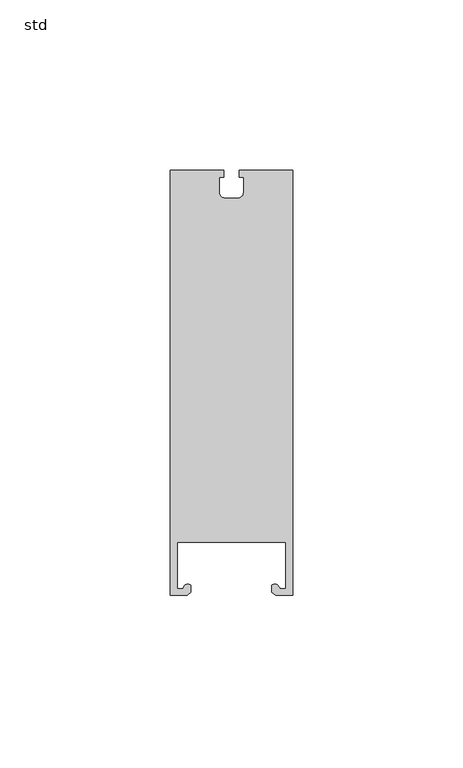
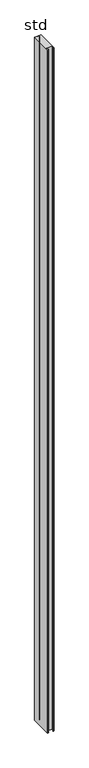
"""IFC4 building model written with IfcOpenShell, lengths in millimetres: column geometry, NLRS_21_COL_drager ST.1250_Storax : std."""

import ifcopenshell
import ifcopenshell.guid

model = None  # the IFC model being written
_history = None  # IfcOwnerHistory: only IFC2X3 demands one
_inside = {}  # id of a spatial element -> (the spatial element, [elements in it])
_under = {}  # id of a project, library or spatial element -> (it, [spatial elements below it])
_declared = {}  # id of a project -> (the project, [libraries it declares])
_typed = {}  # id of a type object -> (the type object, [elements of that type])
_made_of = {}  # id of a material, layer set ... -> (it, [elements and type objects made of it])


def new_model(schema):
    """Start an empty IFC model of exactly this schema.

    Asked for "IFC4X3", IfcOpenShell would pick the latest addendum, in which some entities
    have other attributes; the version numbers below select the first issue.
    IFC2X3 requires an IfcOwnerHistory on every rooted entity: one is made here for all.
    """
    global model, _history
    if schema == "IFC4X3":
        model = ifcopenshell.file(schema_version=(4, 3, 0, 0))
    else:
        model = ifcopenshell.file(schema=schema)
    _inside.clear()
    _under.clear()
    _declared.clear()
    _typed.clear()
    _made_of.clear()
    _history = None
    if model.schema == "IFC2X3":
        org = make("IfcOrganization", Name="unknown")
        user = make(
            "IfcPersonAndOrganization",
            ThePerson=make("IfcPerson", FamilyName="unknown"),
            TheOrganization=org,
        )
        app = make(
            "IfcApplication",
            ApplicationDeveloper=org,
            Version="unknown",
            ApplicationFullName="unknown",
            ApplicationIdentifier="unknown",
        )
        _history = make(
            "IfcOwnerHistory",
            OwningUser=user,
            OwningApplication=app,
            ChangeAction="ADDED",
            CreationDate=0,
        )
    return model


def make(cls, **values):
    """One entity of the class cls with the attributes given. An attribute that is None is left unset."""
    return model.create_entity(
        cls, **{name: value for name, value in values.items() if value is not None}
    )


def rooted(cls, **values):
    """An entity with a GlobalId (a new one), such as an element, a storey or a relation."""
    return make(cls, GlobalId=ifcopenshell.guid.new(), OwnerHistory=_history, **values)


def si_unit(unit_type, name, prefix=None):
    """IfcSIUnit, for example si_unit("LENGTHUNIT", "METRE", prefix="MILLI")."""
    return make("IfcSIUnit", UnitType=unit_type, Prefix=prefix, Name=name)


def assignment(units):
    """IfcUnitAssignment: the units of a project."""
    return None if units is None else make("IfcUnitAssignment", Units=units)


def point(xyz):
    """IfcCartesianPoint."""
    return None if xyz is None else make("IfcCartesianPoint", Coordinates=xyz)


def direction(xyz):
    """IfcDirection."""
    return None if xyz is None else make("IfcDirection", DirectionRatios=xyz)


def frame(location, z_axis=None, x_axis=None):
    """IfcAxis2Placement3D, a coordinate frame: its origin and axes. An axis left out is left unset."""
    return make(
        "IfcAxis2Placement3D",
        Location=point(location),
        Axis=direction(z_axis),
        RefDirection=direction(x_axis),
    )


def frame_2d(location, x_axis=None):
    """IfcAxis2Placement2D, a coordinate frame in the plane: its origin and x axis."""
    return make(
        "IfcAxis2Placement2D", Location=point(location), RefDirection=direction(x_axis)
    )


def origin():
    """The frame at (0, 0, 0) with its axes left unset."""
    return frame((0.0, 0.0, 0.0))


def origin_with_axes():
    """The frame at (0, 0, 0) with the z axis (0, 0, 1) and the x axis (1, 0, 0) written out."""
    return frame((0.0, 0.0, 0.0), z_axis=(0.0, 0.0, 1.0), x_axis=(1.0, 0.0, 0.0))


def place(relative_to, where):
    """IfcLocalPlacement: puts the frame where relative to a parent placement (None: the world)."""
    return make(
        "IfcLocalPlacement", PlacementRelTo=relative_to, RelativePlacement=where
    )


def context(
    kind, dimensions, precision=None, world=None, true_north=None, identifier=None
):
    """IfcGeometricRepresentationContext, for example the 3D "Model" context."""
    return make(
        "IfcGeometricRepresentationContext",
        ContextIdentifier=identifier,
        ContextType=kind,
        CoordinateSpaceDimension=dimensions,
        Precision=precision,
        WorldCoordinateSystem=world,
        TrueNorth=true_north,
    )


def project(units=None, contexts=None):
    """IfcProject with its units and contexts."""
    return rooted(
        "IfcProject",
        Name="project",
        RepresentationContexts=contexts,
        UnitsInContext=assignment(units),
    )


def spatial(cls, under=None, at=None, **own):
    """A site, building, storey or space (cls), placed at a placement, below another one or the project."""
    s = rooted(cls, ObjectPlacement=at, **own)
    if under is not None:
        _under.setdefault(under.id(), (under, []))[1].append(s)
    return s


def polyline(points):
    """IfcPolyline through the points."""
    return make("IfcPolyline", Points=[point(p) for p in points])


def circle_curve(where, radius):
    """IfcCircle in the frame where."""
    return make("IfcCircle", Position=where, Radius=radius)


def trimmed(basis, trim1, trim2, sense, master):
    """IfcTrimmedCurve: the piece of a basis curve between two trims."""
    return make(
        "IfcTrimmedCurve",
        BasisCurve=basis,
        Trim1=trim1,
        Trim2=trim2,
        SenseAgreement=sense,
        MasterRepresentation=master,
    )


def segment(curve, same_sense, transition):
    """IfcCompositeCurveSegment."""
    return make(
        "IfcCompositeCurveSegment",
        Transition=transition,
        SameSense=same_sense,
        ParentCurve=curve,
    )


def composite_curve(segments, self_intersect=None):
    """IfcCompositeCurve: segments joined end to end."""
    return make("IfcCompositeCurve", Segments=segments, SelfIntersect=self_intersect)


def outline(outer, holes=None, kind="AREA"):
    """IfcArbitraryClosedProfileDef: a profile drawn as a closed curve; with holes, ...WithVoids."""
    if holes is None:
        return make("IfcArbitraryClosedProfileDef", ProfileType=kind, OuterCurve=outer)
    return make(
        "IfcArbitraryProfileDefWithVoids",
        ProfileType=kind,
        OuterCurve=outer,
        InnerCurves=holes,
    )


def extrude(swept, where, along, depth):
    """IfcExtrudedAreaSolid: the profile swept, set in the frame where, extruded along a direction by depth."""
    return make(
        "IfcExtrudedAreaSolid",
        SweptArea=swept,
        Position=where,
        ExtrudedDirection=direction(along),
        Depth=depth,
    )


def shape(context_of_items, identifier, shape_type, items):
    """IfcShapeRepresentation: the items that make up one representation, for example the "Body"."""
    return make(
        "IfcShapeRepresentation",
        ContextOfItems=context_of_items,
        RepresentationIdentifier=identifier,
        RepresentationType=shape_type,
        Items=items,
    )


def source(mapping_origin, context_of_items, identifier, shape_type, items):
    """IfcRepresentationMap: a shape defined once, which mapped items show again and again."""
    return make(
        "IfcRepresentationMap",
        MappingOrigin=mapping_origin,
        MappedRepresentation=shape(context_of_items, identifier, shape_type, items),
    )


def transform(
    local_origin,
    x_axis=None,
    y_axis=None,
    z_axis=None,
    scale=None,
    scale2=None,
    scale3=None,
    uniform=True,
):
    """IfcCartesianTransformationOperator3D, or its non-uniform kind. x_axis, y_axis, z_axis: its Axis1, 2, 3."""
    if uniform:
        return make(
            "IfcCartesianTransformationOperator3D",
            Axis1=direction(x_axis),
            Axis2=direction(y_axis),
            LocalOrigin=point(local_origin),
            Scale=scale,
            Axis3=direction(z_axis),
        )
    return make(
        "IfcCartesianTransformationOperator3DnonUniform",
        Axis1=direction(x_axis),
        Axis2=direction(y_axis),
        LocalOrigin=point(local_origin),
        Scale=scale,
        Axis3=direction(z_axis),
        Scale2=scale2,
        Scale3=scale3,
    )


def mapped(mapping_source, mapping_target):
    """IfcMappedItem: shows the shape of a source again, moved by a transform."""
    return make(
        "IfcMappedItem", MappingSource=mapping_source, MappingTarget=mapping_target
    )


def made_of(thing, what):
    """Note that an element or type object is made of a material, layer set ...; save() writes the relation."""
    if what is not None:
        _made_of.setdefault(what.id(), (what, []))[1].append(thing)
    return thing


def element(
    cls,
    number,
    at=None,
    inside=None,
    cuts=None,
    type_object=None,
    material=None,
    context=None,
    identifier="Body",
    shape_type=None,
    held_by="IfcProductDefinitionShape",
    body=None,
    shapes=None,
    **own,
):
    """One element of the class cls, such as IfcWall. Its Tag is "e" and its number.

    at: its placement. inside: the storey or other place that contains it. cuts: it is an
    opening in that element (IfcRelVoidsElement). A single representation is given by context,
    identifier, shape_type and body (its items); several are given by shapes. held_by: the class
    of the entity that holds the representations. save() writes the other relations.
    """
    e = rooted(cls, Tag="e%d" % number, ObjectPlacement=at, **own)
    if body is not None:
        shapes = [shape(context, identifier, shape_type, body)]
    if shapes is not None:
        e.Representation = make(held_by, Representations=shapes)
    if inside is not None:
        _inside.setdefault(inside.id(), (inside, []))[1].append(e)
    if cuts is not None:
        rooted(
            "IfcRelVoidsElement", RelatingBuildingElement=cuts, RelatedOpeningElement=e
        )
    if type_object is not None:
        _typed.setdefault(type_object.id(), (type_object, []))[1].append(e)
    return made_of(e, material)


def aggregate(whole, parts):
    """IfcRelAggregates: a whole, such as a stair, and the parts it consists of."""
    return rooted("IfcRelAggregates", RelatingObject=whole, RelatedObjects=parts)


def save(model, path):
    """Write the relations noted so far, then the file.

    IfcRelAggregates (storeys below a building ...), IfcRelContainedInSpatialStructure (elements
    in a storey), IfcRelDefinesByType, IfcRelAssociatesMaterial and IfcRelDeclares: one each for
    every whole, place, type object, material and project.
    """
    for whole, parts in _under.values():
        aggregate(whole, parts)
    for where, things in _inside.values():
        rooted(
            "IfcRelContainedInSpatialStructure",
            RelatedElements=things,
            RelatingStructure=where,
        )
    for kind, things in _typed.values():
        rooted("IfcRelDefinesByType", RelatedObjects=things, RelatingType=kind)
    for what, things in _made_of.values():
        rooted("IfcRelAssociatesMaterial", RelatedObjects=things, RelatingMaterial=what)
    for by, libraries in _declared.values():
        rooted("IfcRelDeclares", RelatingContext=by, RelatedDefinitions=libraries)
    model.write(path)


def std_0d551fe3(model_context):
    return source(origin(), model_context, "Body", "SweptSolid", [
        extrude(outline(composite_curve([segment(polyline([(-18.0, -126.0), (-18.0, -1.0), (-2.2489445, -1.0), (-2.2489445, -3.0843142), (-3.59041, -3.0843142), (-3.59041, -7.4667227)]), True, "CONTINUOUS"), segment(trimmed(circle_curve(frame_2d((-1.8285608, -7.4667227)), 1.7618492), [point((-3.59041, -7.4667227))], [point((-1.559877, -9.2079641))], True, "CARTESIAN"), True, "CONTINUOUS"), segment(polyline([(-1.559877, -9.2079641), (2.0972447, -9.2079641)]), True, "CONTINUOUS"), segment(trimmed(circle_curve(frame_2d((1.8285608, -7.4667227)), 1.7618492), [point((2.0972447, -9.2079641))], [point((3.59041, -7.4667227))], True, "CARTESIAN"), True, "CONTINUOUS"), segment(polyline([(3.59041, -7.4667227), (3.59041, -3.0843142), (2.2489445, -3.0843142), (2.2489445, -1.0), (18.0, -1.0), (18.0, -126.0), (13.0, -126.0), (11.8999059, -125.0769114), (11.8999059, -123.061549)]), True, "CONTINUOUS"), segment(trimmed(circle_curve(frame_2d((12.7950072, -123.8498072)), 1.1927101), [point((11.8999059, -123.061549))], [point((13.6901084, -123.061549))], False, "CARTESIAN"), True, "CONTINUOUS"), segment(polyline([(13.6901084, -123.061549), (14.3252443, -123.9686169), (16.0, -123.9686169), (16.0, -110.3621189), (-15.8636449, -110.3621189), (-15.8636449, -123.9686169), (-14.3252443, -123.9686169), (-13.6901084, -123.061549)]), True, "CONTINUOUS"), segment(trimmed(circle_curve(frame_2d((-12.7950072, -123.8498072)), 1.1927101), [point((-13.6901084, -123.061549))], [point((-11.8999059, -123.061549))], False, "CARTESIAN"), True, "CONTINUOUS"), segment(polyline([(-11.8999059, -123.061549), (-11.8999059, -125.0769114), (-13.0, -126.0), (-18.0, -126.0)]), True, "CONTINUOUS")], self_intersect=False)), origin_with_axes(), (0.0, 0.0, 1.0), 4000.0),
    ])


if __name__ == "__main__":
    model = new_model("IFC4")
    model_context = context("Model", 3, world=origin())
    ifc_project = project(units=[si_unit("LENGTHUNIT", "METRE", prefix="MILLI")], contexts=[model_context])
    site = spatial("IfcSite", under=ifc_project)
    building = spatial("IfcBuilding", under=site)
    placement = place(None, origin())
    std_shape = std_0d551fe3(model_context)
    element("IfcColumn", 1, ObjectType="NLRS_21_COL_drager ST.1250_Storax : std", at=placement, inside=building, context=model_context, shape_type="MappedRepresentation", body=[
        mapped(std_shape, transform((0.0, 0.0, 0.0), x_axis=(1.0, 0.0, 0.0), y_axis=(0.0, 1.0, 0.0), z_axis=(0.0, 0.0, 1.0))),
    ])
    save(model, "model.ifc")
